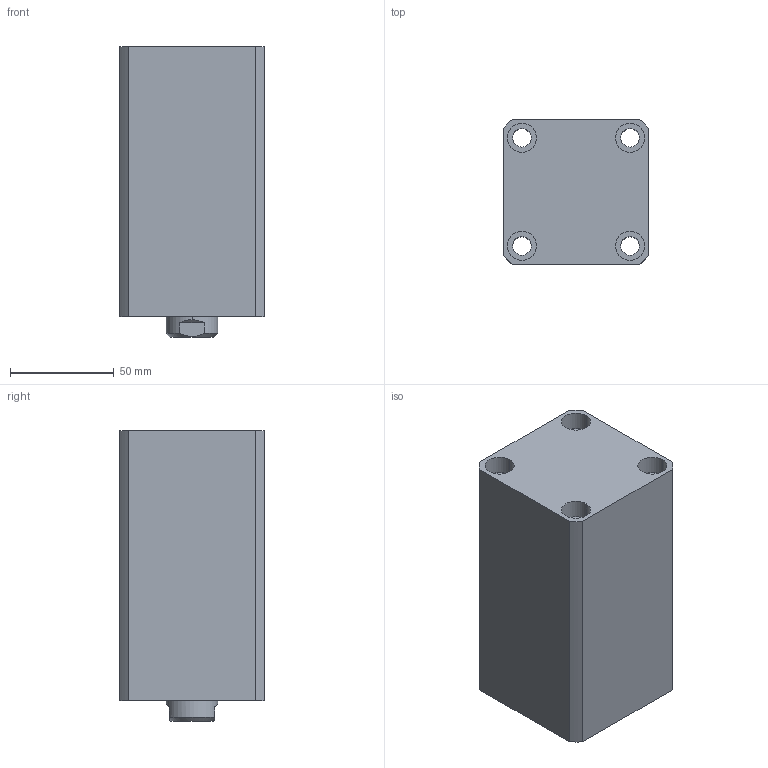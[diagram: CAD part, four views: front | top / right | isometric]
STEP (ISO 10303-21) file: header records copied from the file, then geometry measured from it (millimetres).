
FILE_DESCRIPTION (( 'STEP AP214' ), '1' );
FILE_NAME ('chtb-sd40x75n_asm.STEP', '2018-06-07T07:58:53', ( 'Windows' ), ( 'Microsoft' ), 'SwSTEP 2.0', 'SolidWorks 2015', '' );
FILE_SCHEMA (( 'AUTOMOTIVE_DESIGN' ));
Length unit declared in the file: millimetre
Products named in the file (4): CHTB-SD40QG; CHTB-SD40X75NHSG; CHTB-SD40X75NBT; chtb-sd40x75n_asm
Assembly tree (3 placements, depth 2):
  chtb-sd40x75n_asm
    CHTB-SD40X75NBT
    CHTB-SD40X75NHSG
    CHTB-SD40QG
Bounding box: 70 x 70 x 140 mm (x, y, z)
Volume: 527019.4 mm3; surface area: 103749.4 mm2
Topology: 3 solids, 3 shells, 157 faces, 401 edges, 266 vertices
Faces by surface type: cylinder 80, plane 36, torus 14, bspline 14, cone 13
Entity records: 9977 total; most frequent: CARTESIAN_POINT 6053, ORIENTED_EDGE 790, DIRECTION 768, EDGE_CURVE 395, AXIS2_PLACEMENT_3D 328, VERTEX_POINT 266, EDGE_LOOP 193, CIRCLE 179
